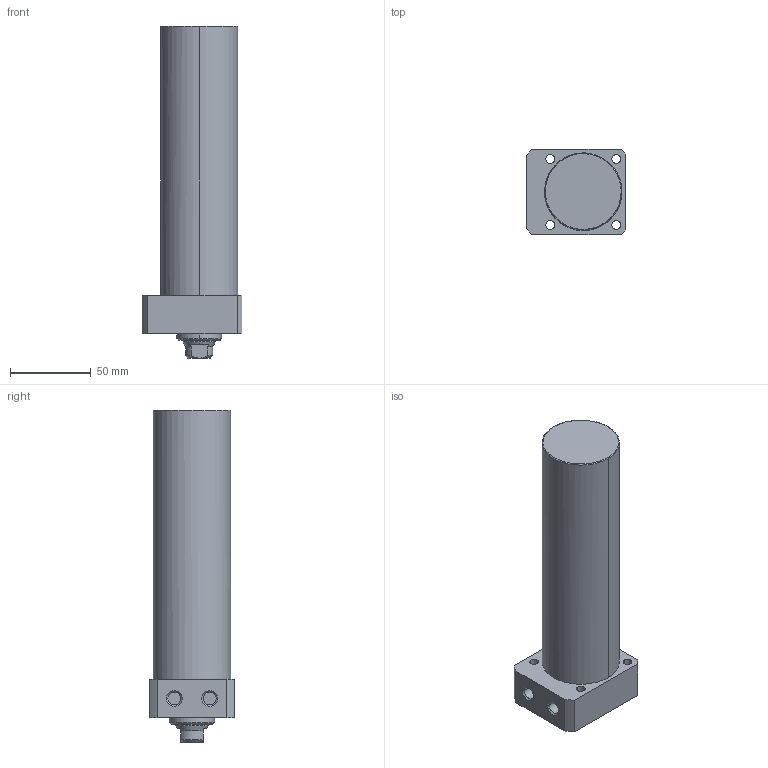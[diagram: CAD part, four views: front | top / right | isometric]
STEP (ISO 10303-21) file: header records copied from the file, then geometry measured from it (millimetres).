
FILE_DESCRIPTION((' '),'2;1');
FILE_NAME( 'TLLR-048CA-140.STEP.stp', '2025-10-24T16:34:32', (' '), ('--- Datakit www.datakit.com---'), ' Datakit CrossCadWare V2024.1 Dec 21 2023', 'Mastercam 2025', ' ');
FILE_SCHEMA(('AUTOMOTIVE_DESIGN { 1 0 10303 214 1 1 1 1 }'));
Length unit declared in the file: millimetre
Products named in the file (1): TLLR-048CA-140
Bounding box: 62 x 53 x 206 mm (x, y, z)
Volume: 380546.2 mm3; surface area: 40546.5 mm2
Topology: 1 solids, 1 shells, 63 faces, 177 edges, 122 vertices
Faces by surface type: cylinder 28, plane 19, cone 14, torus 2
Entity records: 2172 total; most frequent: CARTESIAN_POINT 409, DIRECTION 400, ORIENTED_EDGE 350, EDGE_CURVE 175, AXIS2_PLACEMENT_3D 169, VERTEX_POINT 122, CIRCLE 105, EDGE_LOOP 79
